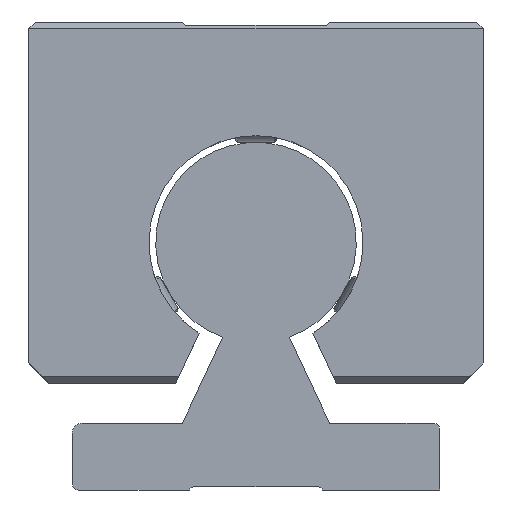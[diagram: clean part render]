
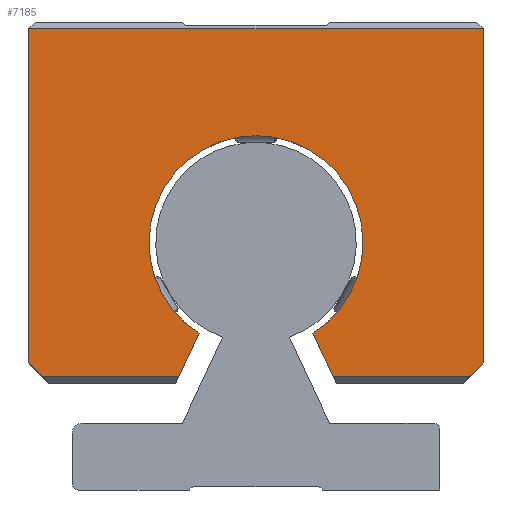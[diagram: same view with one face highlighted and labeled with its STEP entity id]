
A CAD part, left-side view. The second image highlights one B-rep face of the part: STEP entity #7185.
In plain terms, the highlighted planar face has unit normal (-1, 0, 0).
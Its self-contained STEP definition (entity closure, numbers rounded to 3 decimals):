
#5686=CARTESIAN_POINT('',(228.487,-34.,69.0));
#5687=VERTEX_POINT('',#5686);
#5696=CARTESIAN_POINT('',(228.487,-34.,19.0));
#5697=VERTEX_POINT('',#5696);
#5698=CARTESIAN_POINT('',(228.487,-34.,69.0));
#5699=DIRECTION('',(0.0,0.0,-1.0));
#5700=VECTOR('',#5699,50.0);
#5701=LINE('',#5698,#5700);
#5702=EDGE_CURVE('',#5687,#5697,#5701,.T.);
#5957=CARTESIAN_POINT('',(228.487,-8.522,23.458));
#5958=VERTEX_POINT('',#5957);
#5965=CARTESIAN_POINT('',(228.487,8.522,23.458));
#5966=VERTEX_POINT('',#5965);
#5967=CARTESIAN_POINT('',(228.487,0.,37.));
#5968=DIRECTION('',(-1.0,0.0,0.0));
#5969=DIRECTION('',(0.0,-1.0,0.0));
#5970=AXIS2_PLACEMENT_3D('',#5967,#5968,#5969);
#5971=CIRCLE('',#5970,16.0);
#5972=EDGE_CURVE('',#5958,#5966,#5971,.T.);
#6813=CARTESIAN_POINT('',(228.487,34.,69.0));
#6814=VERTEX_POINT('',#6813);
#6821=CARTESIAN_POINT('',(228.487,34.,69.0));
#6822=DIRECTION('',(0.0,-1.0,0.0));
#6823=VECTOR('',#6822,68.0);
#6824=LINE('',#6821,#6823);
#6825=EDGE_CURVE('',#6814,#5687,#6824,.T.);
#6835=CARTESIAN_POINT('',(228.487,32.,17.));
#6836=VERTEX_POINT('',#6835);
#6853=CARTESIAN_POINT('',(228.487,11.534,17.));
#6854=VERTEX_POINT('',#6853);
#6861=CARTESIAN_POINT('',(228.487,11.534,17.));
#6862=DIRECTION('',(0.0,1.0,0.0));
#6863=VECTOR('',#6862,20.466);
#6864=LINE('',#6861,#6863);
#6865=EDGE_CURVE('',#6854,#6836,#6864,.T.);
#6924=CARTESIAN_POINT('',(228.487,34.,19.0));
#6925=VERTEX_POINT('',#6924);
#6926=CARTESIAN_POINT('',(228.487,32.,17.));
#6927=DIRECTION('',(0.0,0.707,0.707));
#6928=VECTOR('',#6927,2.828);
#6929=LINE('',#6926,#6928);
#6930=EDGE_CURVE('',#6836,#6925,#6929,.T.);
#7111=CARTESIAN_POINT('',(228.487,-32.0,17.));
#7112=VERTEX_POINT('',#7111);
#7113=CARTESIAN_POINT('',(228.487,-34.,19.0));
#7114=DIRECTION('',(0.0,0.707,-0.707));
#7115=VECTOR('',#7114,2.828);
#7116=LINE('',#7113,#7115);
#7117=EDGE_CURVE('',#5697,#7112,#7116,.T.);
#7135=CARTESIAN_POINT('',(228.487,-11.534,17.));
#7136=VERTEX_POINT('',#7135);
#7137=CARTESIAN_POINT('',(228.487,-32.0,17.));
#7138=DIRECTION('',(0.0,1.0,0.0));
#7139=VECTOR('',#7138,20.466);
#7140=LINE('',#7137,#7139);
#7141=EDGE_CURVE('',#7112,#7136,#7140,.T.);
#7153=CARTESIAN_POINT('',(228.487,-22.5,69.75));
#7154=DIRECTION('',(1.0,0.0,0.0));
#7155=DIRECTION('',(0.0,0.0,-1.0));
#7156=AXIS2_PLACEMENT_3D('',#7153,#7154,#7155);
#7157=PLANE('',#7156);
#7158=ORIENTED_EDGE('',*,*,#6865,.F.);
#7159=CARTESIAN_POINT('',(228.487,8.522,23.458));
#7160=DIRECTION('',(0.0,0.423,-0.906));
#7161=VECTOR('',#7160,7.126);
#7162=LINE('',#7159,#7161);
#7163=EDGE_CURVE('',#5966,#6854,#7162,.T.);
#7164=ORIENTED_EDGE('',*,*,#7163,.F.);
#7165=ORIENTED_EDGE('',*,*,#5972,.F.);
#7166=CARTESIAN_POINT('',(228.487,-11.534,17.));
#7167=DIRECTION('',(0.0,0.423,0.906));
#7168=VECTOR('',#7167,7.126);
#7169=LINE('',#7166,#7168);
#7170=EDGE_CURVE('',#7136,#5958,#7169,.T.);
#7171=ORIENTED_EDGE('',*,*,#7170,.F.);
#7172=ORIENTED_EDGE('',*,*,#7141,.F.);
#7173=ORIENTED_EDGE('',*,*,#7117,.F.);
#7174=ORIENTED_EDGE('',*,*,#5702,.F.);
#7175=ORIENTED_EDGE('',*,*,#6825,.F.);
#7176=CARTESIAN_POINT('',(228.487,34.,19.0));
#7177=DIRECTION('',(0.0,0.0,1.0));
#7178=VECTOR('',#7177,50.0);
#7179=LINE('',#7176,#7178);
#7180=EDGE_CURVE('',#6925,#6814,#7179,.T.);
#7181=ORIENTED_EDGE('',*,*,#7180,.F.);
#7182=ORIENTED_EDGE('',*,*,#6930,.F.);
#7183=EDGE_LOOP('',(#7158,#7164,#7165,#7171,#7172,#7173,#7174,#7175,#7181,#7182));
#7184=FACE_OUTER_BOUND('',#7183,.T.);
#7185=ADVANCED_FACE('',(#7184),#7157,.F.);
